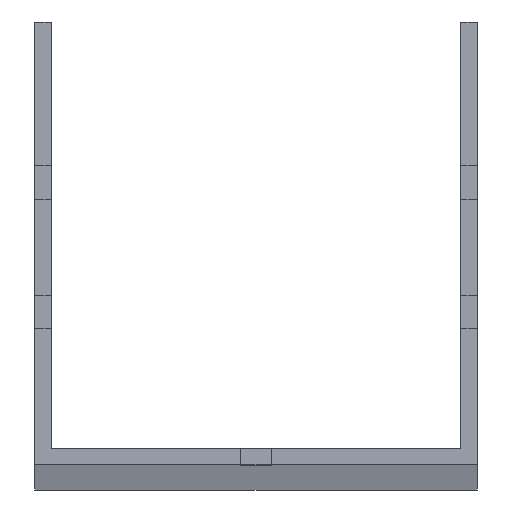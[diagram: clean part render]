
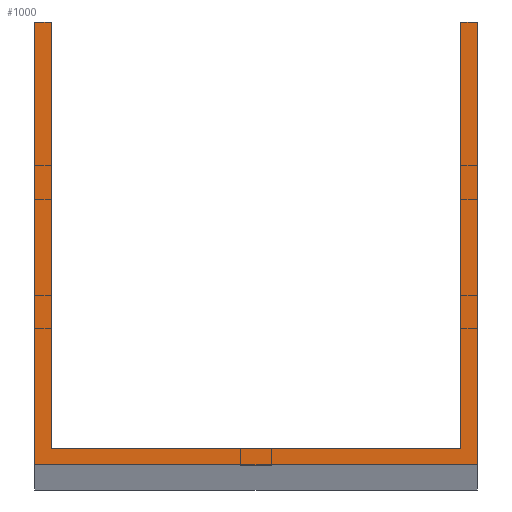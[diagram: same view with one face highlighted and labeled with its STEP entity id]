
A CAD part, top view. The second image highlights one B-rep face of the part: STEP entity #1000.
In plain terms, the highlighted planar face has unit normal (0, 0, 1).
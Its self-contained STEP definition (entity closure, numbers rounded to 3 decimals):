
#12 = VERTEX_POINT ( 'NONE', #1326 ) ;
#31 = EDGE_CURVE ( 'NONE', #1130, #1158, #42, .T. ) ;
#42 = LINE ( 'NONE', #1076, #294 ) ;
#45 = LINE ( 'NONE', #1210, #738 ) ;
#47 = FACE_OUTER_BOUND ( 'NONE', #1327, .T. ) ;
#54 = DIRECTION ( 'NONE',  ( -1., 0., 0. ) ) ;
#68 = DIRECTION ( 'NONE',  ( 0., 1., 0. ) ) ;
#97 = DIRECTION ( 'NONE',  ( 0., 1., 0. ) ) ;
#109 = ORIENTED_EDGE ( 'NONE', *, *, #31, .T. ) ;
#112 = VECTOR ( 'NONE', #97, 1000. ) ;
#127 = EDGE_CURVE ( 'NONE', #1221, #632, #849, .T. ) ;
#144 = ORIENTED_EDGE ( 'NONE', *, *, #1626, .T. ) ;
#161 = PLANE ( 'NONE',  #1234 ) ;
#183 = CARTESIAN_POINT ( 'NONE',  ( -46.25, 92.5, 1500. ) ) ;
#278 = ORIENTED_EDGE ( 'NONE', *, *, #1293, .T. ) ;
#294 = VECTOR ( 'NONE', #424, 1000. ) ;
#343 = VERTEX_POINT ( 'NONE', #823 ) ;
#366 = CARTESIAN_POINT ( 'NONE',  ( 46.25, 92.5, 1500. ) ) ;
#394 = ORIENTED_EDGE ( 'NONE', *, *, #1313, .T. ) ;
#421 = DIRECTION ( 'NONE',  ( 1., 0., 0. ) ) ;
#424 = DIRECTION ( 'NONE',  ( 0., -1., 0. ) ) ;
#460 = EDGE_CURVE ( 'NONE', #1139, #1221, #594, .T. ) ;
#466 = LINE ( 'NONE', #1106, #112 ) ;
#556 = CARTESIAN_POINT ( 'NONE',  ( -46.25, 92.5, 1500. ) ) ;
#562 = EDGE_CURVE ( 'NONE', #632, #343, #697, .T. ) ;
#568 = VECTOR ( 'NONE', #993, 1000. ) ;
#577 = LINE ( 'NONE', #556, #877 ) ;
#594 = LINE ( 'NONE', #1260, #1009 ) ;
#615 = CARTESIAN_POINT ( 'NONE',  ( 42.75, 3.5, 1500. ) ) ;
#626 = VECTOR ( 'NONE', #68, 1000. ) ;
#632 = VERTEX_POINT ( 'NONE', #615 ) ;
#697 = LINE ( 'NONE', #1611, #626 ) ;
#738 = VECTOR ( 'NONE', #421, 1000. ) ;
#759 = CARTESIAN_POINT ( 'NONE',  ( -42.75, 92.5, 1500. ) ) ;
#823 = CARTESIAN_POINT ( 'NONE',  ( 42.75, 92.5, 1500. ) ) ;
#849 = LINE ( 'NONE', #1245, #568 ) ;
#877 = VECTOR ( 'NONE', #54, 1000. ) ;
#961 = LINE ( 'NONE', #183, #1660 ) ;
#993 = DIRECTION ( 'NONE',  ( 1., 0., 0. ) ) ;
#1000 = ADVANCED_FACE ( 'NONE', ( #47 ), #161, .T. ) ;
#1009 = VECTOR ( 'NONE', #1237, 1000. ) ;
#1023 = CARTESIAN_POINT ( 'NONE',  ( -46.25, 0., 1500. ) ) ;
#1076 = CARTESIAN_POINT ( 'NONE',  ( -46.25, 92.5, 1500. ) ) ;
#1081 = DIRECTION ( 'NONE',  ( 1., 0., 0. ) ) ;
#1084 = ORIENTED_EDGE ( 'NONE', *, *, #1109, .T. ) ;
#1092 = DIRECTION ( 'NONE',  ( 0., 0., 1. ) ) ;
#1106 = CARTESIAN_POINT ( 'NONE',  ( 46.25, 92.5, 1500. ) ) ;
#1109 = EDGE_CURVE ( 'NONE', #12, #1457, #466, .T. ) ;
#1130 = VERTEX_POINT ( 'NONE', #1639 ) ;
#1139 = VERTEX_POINT ( 'NONE', #759 ) ;
#1158 = VERTEX_POINT ( 'NONE', #1023 ) ;
#1167 = ORIENTED_EDGE ( 'NONE', *, *, #460, .F. ) ;
#1169 = CARTESIAN_POINT ( 'NONE',  ( -42.75, 3.5, 1500. ) ) ;
#1174 = ORIENTED_EDGE ( 'NONE', *, *, #127, .F. ) ;
#1210 = CARTESIAN_POINT ( 'NONE',  ( -46.25, 0., 1500. ) ) ;
#1221 = VERTEX_POINT ( 'NONE', #1169 ) ;
#1234 = AXIS2_PLACEMENT_3D ( 'NONE', #1350, #1092, #1081 ) ;
#1237 = DIRECTION ( 'NONE',  ( 0., -1., 0. ) ) ;
#1245 = CARTESIAN_POINT ( 'NONE',  ( -46.25, 3.5, 1500. ) ) ;
#1260 = CARTESIAN_POINT ( 'NONE',  ( -42.75, 92.5, 1500. ) ) ;
#1293 = EDGE_CURVE ( 'NONE', #1139, #1130, #577, .T. ) ;
#1313 = EDGE_CURVE ( 'NONE', #1158, #12, #45, .T. ) ;
#1326 = CARTESIAN_POINT ( 'NONE',  ( 46.25, 0., 1500. ) ) ;
#1327 = EDGE_LOOP ( 'NONE', ( #1167, #278, #109, #394, #1084, #144, #1334, #1174 ) ) ;
#1334 = ORIENTED_EDGE ( 'NONE', *, *, #562, .F. ) ;
#1350 = CARTESIAN_POINT ( 'NONE',  ( 0., 0., 1500. ) ) ;
#1391 = DIRECTION ( 'NONE',  ( -1., 0., 0. ) ) ;
#1457 = VERTEX_POINT ( 'NONE', #366 ) ;
#1611 = CARTESIAN_POINT ( 'NONE',  ( 42.75, 92.5, 1500. ) ) ;
#1626 = EDGE_CURVE ( 'NONE', #1457, #343, #961, .T. ) ;
#1639 = CARTESIAN_POINT ( 'NONE',  ( -46.25, 92.5, 1500. ) ) ;
#1660 = VECTOR ( 'NONE', #1391, 1000. ) ;
